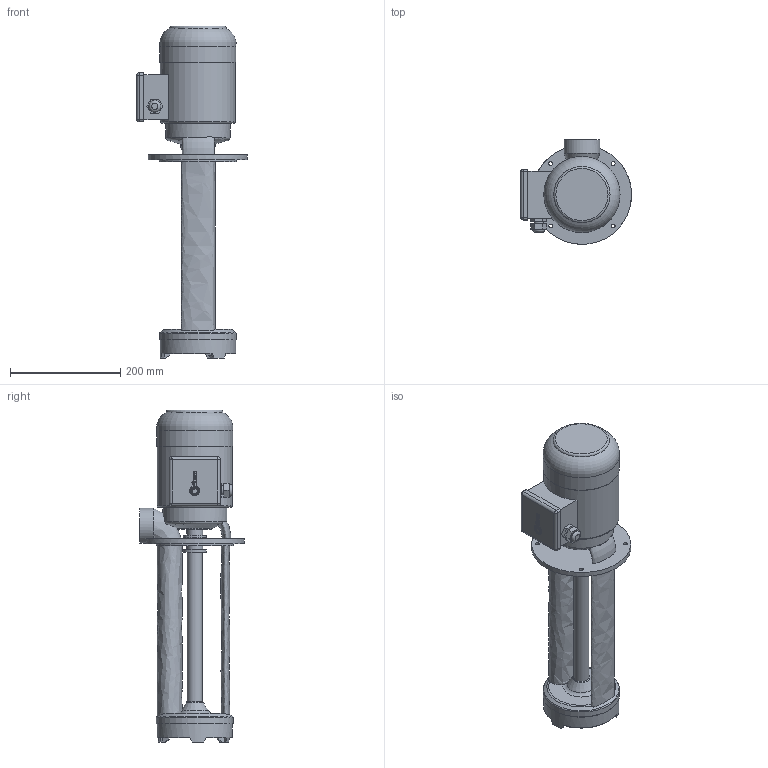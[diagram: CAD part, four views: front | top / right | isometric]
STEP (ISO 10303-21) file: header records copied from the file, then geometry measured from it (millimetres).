
FILE_DESCRIPTION(/* description */ ('Unknown'),/* implementation_level */ '2;1');
FILE_NAME(/* name */ 'EPV 250-360',/* time_stamp */ '2025-05-30T15:08:36+03:00',/* author */ ('Unknown'),/* organization */ ('Unknown'),/* preprocessor_version */ 'ST-DEVELOPER v16.7',/* originating_system */ 'DEX',/* authorisation */ $);
FILE_SCHEMA (('AUTOMOTIVE_DESIGN {1 0 10303 214 3 1 1}'));
Length unit declared in the file: millimetre
Products named in the file (1): EPV 250-360
Bounding box: 201.5 x 190 x 602.36 mm (x, y, z)
Volume: 5444766.7 mm3; surface area: 367451.9 mm2
Topology: 1 solids, 1 shells, 268 faces, 678 edges, 435 vertices
Faces by surface type: plane 91, bspline 81, cylinder 56, torus 26, cone 14
Full cylindrical faces by diameter (mm): 7 x4, 17 x1, 21.5 x1, 28 x1, 29 x3, 30 x1, 42 x2, 44 x1, 48 x1, 62 x1, 94 x1, 116.969 x1, 136.473 x1, 137 x1, 137.994 x1, 139 x1, 140 x1, 180 x1
Entity records: 11389 total; most frequent: CARTESIAN_POINT 5687, ORIENTED_EDGE 1212, DIRECTION 973, EDGE_CURVE 606, VERTEX_POINT 419, AXIS2_PLACEMENT_3D 372, EDGE_LOOP 363, FACE_BOUND 363
